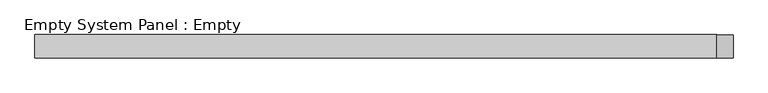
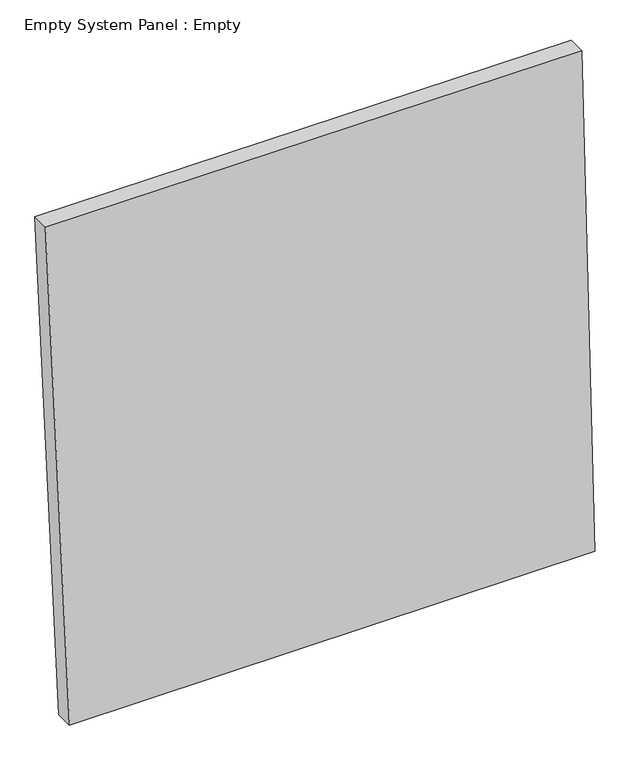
"""IFC4 building model written with IfcOpenShell, lengths in millimetres: plate geometry, Empty System Panel : Empty."""

from ifc_helpers import new_model, si_unit, frame, origin, place, context, project, spatial, polyline, outline, extrude, source, transform, mapped, element, save


def empty_system_panel_empty_02da1d72(model_context):
    return source(origin(), model_context, "Body", "SweptSolid", [
        extrude(outline(polyline([(0.0, -1401.3294362), (0.0, 1535.5279553), (2981.6340164, 1463.6854288), (2988.9577903, -1535.5279553), (0.0, -1401.3294362)])), frame((0.0, -50.8, 0.0), z_axis=(0.0, 1.0, 0.0), x_axis=(0.0, 0.0, 1.0)), (0.0, 0.0, 1.0), 101.6),
    ])


if __name__ == "__main__":
    model = new_model("IFC4")
    model_context = context("Model", 3, world=origin())
    ifc_project = project(units=[si_unit("LENGTHUNIT", "METRE", prefix="MILLI")], contexts=[model_context])
    site = spatial("IfcSite", under=ifc_project)
    building = spatial("IfcBuilding", under=site)
    placement = place(None, origin())
    empty_system_panel_empty_shape = empty_system_panel_empty_02da1d72(model_context)
    element("IfcPlate", 1, ObjectType="Empty System Panel : Empty", at=placement, inside=building, context=model_context, shape_type="MappedRepresentation", body=[
        mapped(empty_system_panel_empty_shape, transform((0.0, 0.0, 0.0), x_axis=(1.0, 0.0, 0.0), y_axis=(0.0, 1.0, 0.0), z_axis=(0.0, 0.0, 1.0))),
    ])
    save(model, "model.ifc")
